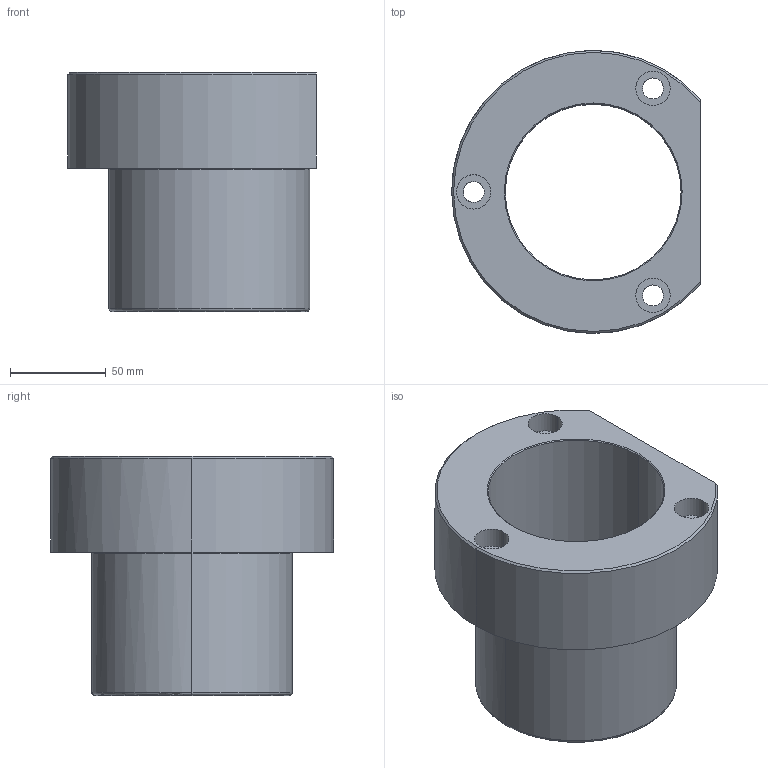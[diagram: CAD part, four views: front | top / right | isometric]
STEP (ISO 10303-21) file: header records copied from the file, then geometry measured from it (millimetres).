
FILE_DESCRIPTION(('CATIA V5 STEP Exchange'),'2;1');
FILE_NAME('C:\Users\Utente\Desktop\IO LAVORO\3D X SITO CF\X SITO\737\737-80.stp','2021-01-17T16:57:37+00:00',('none'),('none'),'CATIA Version 5 Release 20 GA (IN-10)','CATIA V5 STEP AP203','none');
FILE_SCHEMA(('CONFIG_CONTROL_DESIGN'));
Length unit declared in the file: millimetre
Products named in the file (1): 737-80
Bounding box: 130 x 147.99 x 125 mm (x, y, z)
Volume: 598790 mm3; surface area: 107671.4 mm2
Topology: 1 solids, 1 shells, 37 faces, 82 edges, 51 vertices
Faces by surface type: cylinder 18, plane 7, cone 6, torus 6
Entity records: 1250 total; most frequent: CARTESIAN_POINT 399, ORIENTED_EDGE 164, DIRECTION 144, AXIS2_PLACEMENT_3D 82, EDGE_CURVE 82, VERTEX_POINT 51, EDGE_LOOP 49, CIRCLE 44
